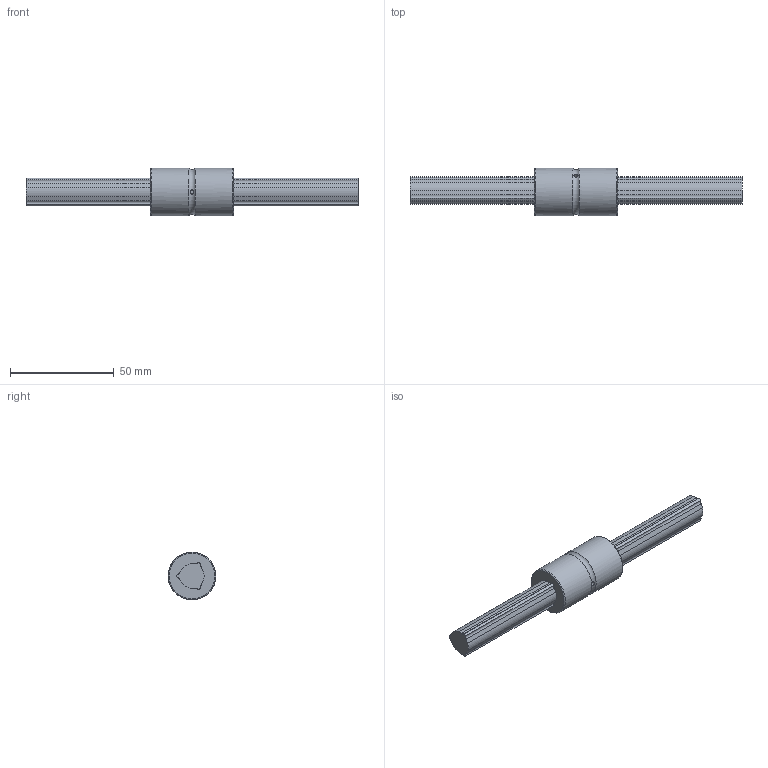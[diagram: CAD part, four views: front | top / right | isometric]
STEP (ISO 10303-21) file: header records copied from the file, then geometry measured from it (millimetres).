
FILE_DESCRIPTION(/* description */ ('STEP AP214'),/* implementation_level */ '2;1');
FILE_NAME(/* name */ 'LBS15+160L(40600)',/* time_stamp */ '2024-09-04T12:47:26+02:00',/* author */ ('License CC BY-ND 4.0'),/* organization */ ('CADENAS'),/* preprocessor_version */ 'ST-DEVELOPER v19.3',/* originating_system */ 'PARTsolutions',/* authorisation */ ' ');
FILE_SCHEMA (('AUTOMOTIVE_DESIGN {1 0 10303 214 3 1 1}'));
Length unit declared in the file: millimetre
Products named in the file (3): LBS15+160L(40600); LBS15 Nut; LBS151160 Spline Shaft
Assembly tree (2 placements, depth 2):
  LBS15+160L(40600)
    LBS15 Nut
    LBS151160 Spline Shaft
Bounding box: 160 x 23 x 23 mm (x, y, z)
Volume: 30618.9 mm3; surface area: 12286.5 mm2
Topology: 2 solids, 2 shells, 54 faces, 152 edges, 101 vertices
Faces by surface type: cylinder 31, plane 19, torus 4
Full cylindrical faces by diameter (mm): 2 x3, 23 x2
Entity records: 1819 total; most frequent: CARTESIAN_POINT 364, DIRECTION 300, ORIENTED_EDGE 280, EDGE_CURVE 140, AXIS2_PLACEMENT_3D 114, VERTEX_POINT 96, LINE 72, VECTOR 72
